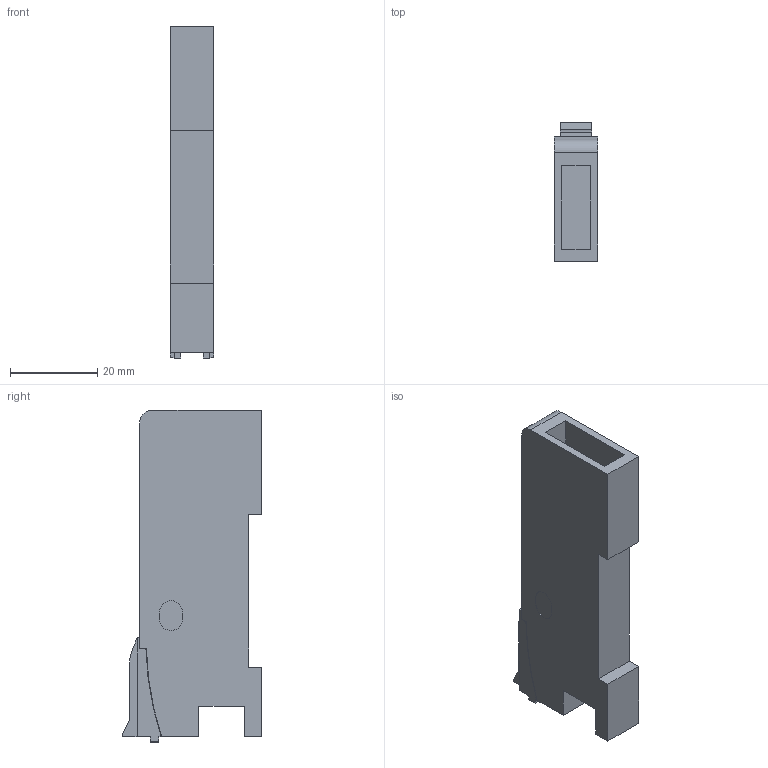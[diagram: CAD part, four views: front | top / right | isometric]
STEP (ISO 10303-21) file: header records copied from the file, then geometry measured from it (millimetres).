
FILE_DESCRIPTION (( 'STEP AP203' ), '1' );
FILE_NAME ('ls-501.STEP', '2013-05-13T10:28:32', ( 'sunx' ), ( 'sunx' ), 'SwSTEP 2.0', 'SolidWorks 2010', '' );
FILE_SCHEMA (( 'CONFIG_CONTROL_DESIGN' ));
Length unit declared in the file: millimetre
Products named in the file (3): ls-501_amp; ls-501_cover; ls-501
Assembly tree (2 placements, depth 2):
  ls-501
    ls-501_amp
    ls-501_cover
Bounding box: 10 x 32 x 76.2 mm (x, y, z)
Volume: 17893.9 mm3; surface area: 7737.2 mm2
Topology: 2 solids, 2 shells, 165 faces, 415 edges, 276 vertices
Faces by surface type: plane 140, cylinder 25
Entity records: 5188 total; most frequent: CARTESIAN_POINT 861, ORIENTED_EDGE 830, DIRECTION 805, EDGE_CURVE 415, VECTOR 365, LINE 365, VERTEX_POINT 276, AXIS2_PLACEMENT_3D 220
